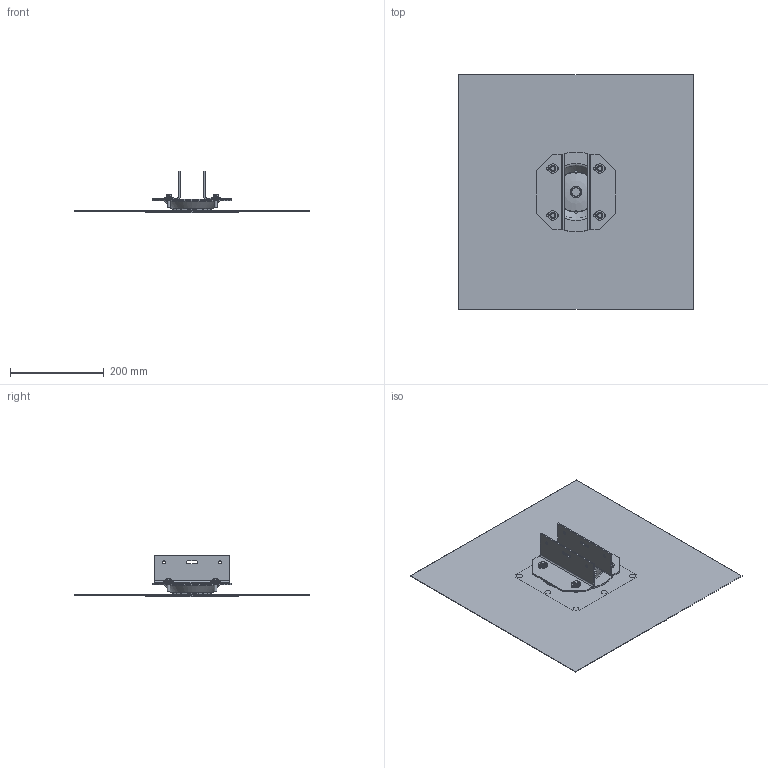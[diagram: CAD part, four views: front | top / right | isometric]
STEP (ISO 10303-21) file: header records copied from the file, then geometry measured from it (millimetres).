
FILE_DESCRIPTION(/* description */ ('PIN Typ A auf Holz mit Bitumen'),/* implementation_level */ '2;1');
FILE_NAME(/* name */ '777-111_PIN-A-H-BI.stp',/* time_stamp */ '2024-01-15T11:36:32+01:00',/* author */ ('fstrolz'),/* organization */ (''),/* preprocessor_version */ 'ST-DEVELOPER v19.2',/* originating_system */ 'Autodesk Inventor 2023',/* authorisation */ '');
FILE_SCHEMA (('AUTOMOTIVE_DESIGN { 1 0 10303 214 3 1 1 }'));
Length unit declared in the file: millimetre
Products named in the file (13): 777-111_PIN-A-H-BI; 777-606; 777-606_01; 777-606_03; 777-501; 777-502; 777-503; 777-609; 777-610; 777-504; DIN 6921 - M6 x 20; DIN 125 - A 10,5; 777-607
Assembly tree (16 placements, depth 3):
  777-111_PIN-A-H-BI
    777-606
      777-606_01
      777-606_03
    777-501
    777-502
    777-503  x2
    777-609
    777-610
    777-504  x4
      DIN 6921 - M6 x 20
      DIN 125 - A 10,5
    777-607
Bounding box: 500 x 500 x 88.36 mm (x, y, z)
Volume: 561720.6 mm3; surface area: 724895.6 mm2
Topology: 17 solids, 17 shells, 225 faces, 527 edges, 336 vertices
Faces by surface type: plane 124, cylinder 49, cone 30, bspline 11, torus 10, sphere 1
Full cylindrical faces by diameter (mm): 5.7 x4, 6 x10, 10 x1, 10.2 x1, 10.5 x4, 11 x1, 12 x1, 12.5 x1, 13 x2, 16.63 x1, 20 x5, 24 x1, 170.033 x1
Entity records: 5238 total; most frequent: CARTESIAN_POINT 1361, DIRECTION 733, ORIENTED_EDGE 680, EDGE_CURVE 340, AXIS2_PLACEMENT_3D 286, VERTEX_POINT 216, EDGE_LOOP 190, LINE 161
